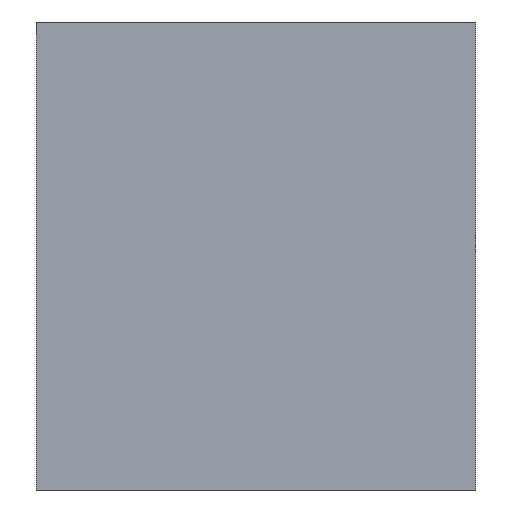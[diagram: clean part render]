
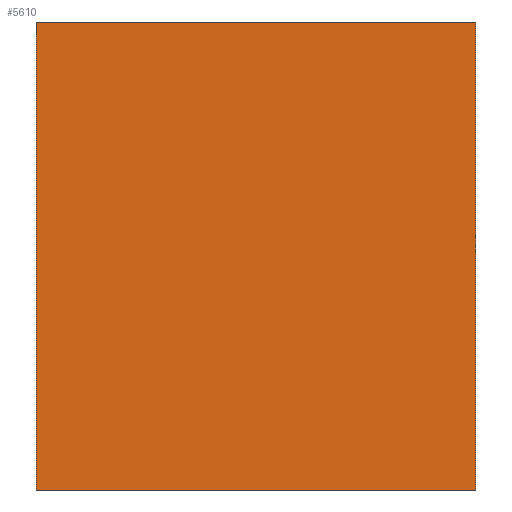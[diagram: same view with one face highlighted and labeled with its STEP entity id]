
A CAD part, front view. The second image highlights one B-rep face of the part: STEP entity #5610.
In plain terms, the highlighted planar face has unit normal (0, -1, 0).
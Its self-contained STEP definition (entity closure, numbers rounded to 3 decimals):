
#2550=LINE('',#43972,#3240);
#2554=LINE('',#43981,#3244);
#2557=LINE('',#44000,#3247);
#2559=LINE('',#44017,#3249);
#3240=VECTOR('',#21411,1.);
#3244=VECTOR('',#21417,1.);
#3247=VECTOR('',#21426,1.);
#3249=VECTOR('',#21434,1.);
#4413=FACE_OUTER_BOUND('',#8081,.T.);
#5610=ADVANCED_FACE('',(#4413),#6047,.T.);
#6047=PLANE('',#17295);
#8081=EDGE_LOOP('',(#11651,#11652,#11653,#11654));
#11651=ORIENTED_EDGE('',*,*,#14741,.T.);
#11652=ORIENTED_EDGE('',*,*,#14734,.T.);
#11653=ORIENTED_EDGE('',*,*,#14747,.T.);
#11654=ORIENTED_EDGE('',*,*,#14730,.T.);
#12928=VERTEX_POINT('',#43971);
#12929=VERTEX_POINT('',#43973);
#12932=VERTEX_POINT('',#43980);
#12933=VERTEX_POINT('',#43982);
#14730=EDGE_CURVE('',#12929,#12928,#2550,.T.);
#14734=EDGE_CURVE('',#12933,#12932,#2554,.T.);
#14741=EDGE_CURVE('',#12928,#12933,#2557,.T.);
#14747=EDGE_CURVE('',#12932,#12929,#2559,.T.);
#17295=AXIS2_PLACEMENT_3D('',#44019,#21437,#21438);
#21411=DIRECTION('',(-1.,0.,0.));
#21417=DIRECTION('',(1.,0.,0.));
#21426=DIRECTION('',(0.,0.,-1.));
#21434=DIRECTION('',(0.,0.,1.));
#21437=DIRECTION('',(0.,-1.,0.));
#21438=DIRECTION('',(0.,0.,-1.));
#43971=CARTESIAN_POINT('',(-24.091,-47.5,27.));
#43972=CARTESIAN_POINT('',(109.41,-47.5,27.));
#43973=CARTESIAN_POINT('',(130.91,-47.5,27.));
#43980=CARTESIAN_POINT('',(130.91,-47.5,-138.));
#43981=CARTESIAN_POINT('',(-2.591,-47.5,-138.));
#43982=CARTESIAN_POINT('',(-24.091,-47.5,-138.));
#44000=CARTESIAN_POINT('',(-24.091,-47.5,1.499));
#44017=CARTESIAN_POINT('',(130.91,-47.5,-112.398));
#44019=CARTESIAN_POINT('',(0.,-47.5,0.));
